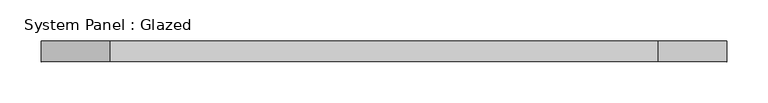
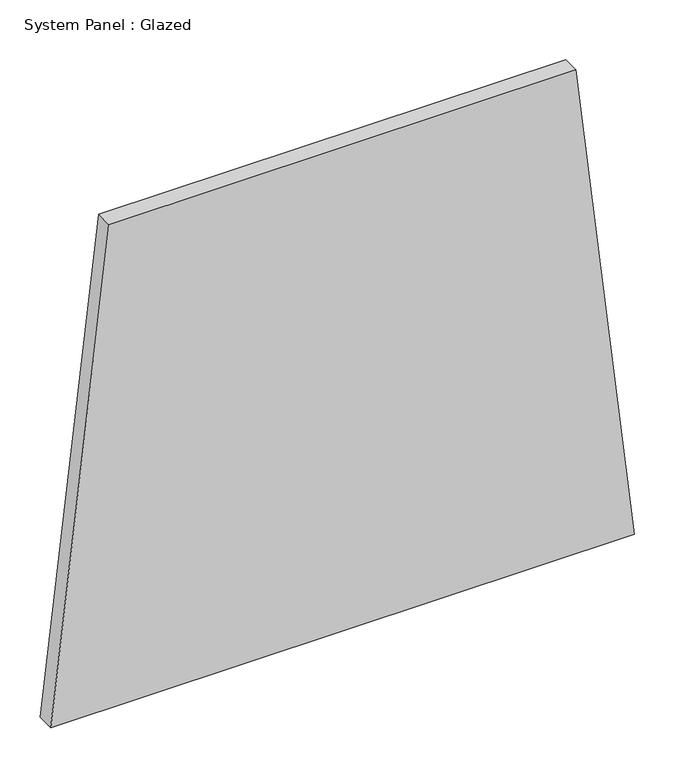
"""IFC4 building model written with IfcOpenShell, lengths in millimetres: plate geometry, System Panel : Glazed."""

from ifc_helpers import new_model, si_unit, frame, origin, place, context, project, spatial, polyline, outline, extrude, source, transform, mapped, element, save


def system_panel_glazed_7ee87b59(model_context):
    return source(origin(), model_context, "Body", "SweptSolid", [
        extrude(outline(polyline([(0.0, -417.4897285), (0.0, 417.4897285), (731.6929072, 334.0478698), (731.6929072, -334.0478698), (0.0, -417.4897285)])), frame((0.0, -44.45, 0.0), z_axis=(0.0, 1.0, 0.0), x_axis=(0.0, 0.0, 1.0)), (0.0, 0.0, 1.0), 25.4),
    ])


if __name__ == "__main__":
    model = new_model("IFC4")
    model_context = context("Model", 3, world=origin())
    ifc_project = project(units=[si_unit("LENGTHUNIT", "METRE", prefix="MILLI")], contexts=[model_context])
    site = spatial("IfcSite", under=ifc_project)
    building = spatial("IfcBuilding", under=site)
    placement = place(None, origin())
    system_panel_glazed_shape = system_panel_glazed_7ee87b59(model_context)
    element("IfcPlate", 1, ObjectType="System Panel : Glazed", at=placement, inside=building, context=model_context, shape_type="MappedRepresentation", body=[
        mapped(system_panel_glazed_shape, transform((0.0, 0.0, 0.0), x_axis=(1.0, 0.0, 0.0), y_axis=(0.0, 1.0, 0.0), z_axis=(0.0, 0.0, 1.0))),
    ])
    save(model, "model.ifc")
